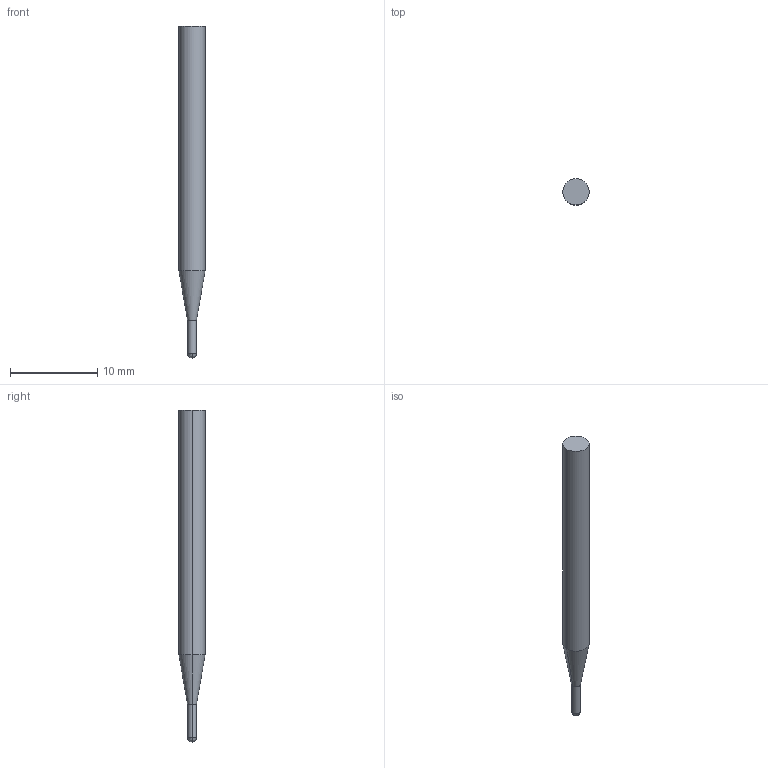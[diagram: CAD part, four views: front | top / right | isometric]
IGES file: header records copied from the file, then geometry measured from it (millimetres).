
Start section: 3D InterOp IGES (v. 2020 1.0.1), Spatial Corp. Copyright (c) 1999-2017.
Global section: file name: WZF18516_1.igs; native system: Spatial Corp.; preprocessor: 3D InterOp GENERIC/IGES 3.0; author: Noname; organization: Noname; date: 20201007.093008; units: metre
Bounding box: 3 x 3 x 37.99 mm (x, y, z)
Surface area: 320.8 mm2 (no closed solid volume)
Topology: 0 solids, 0 shells, 11 faces, 44 edges, 40 vertices
Faces by surface type: revolution 10, extrusion 1
